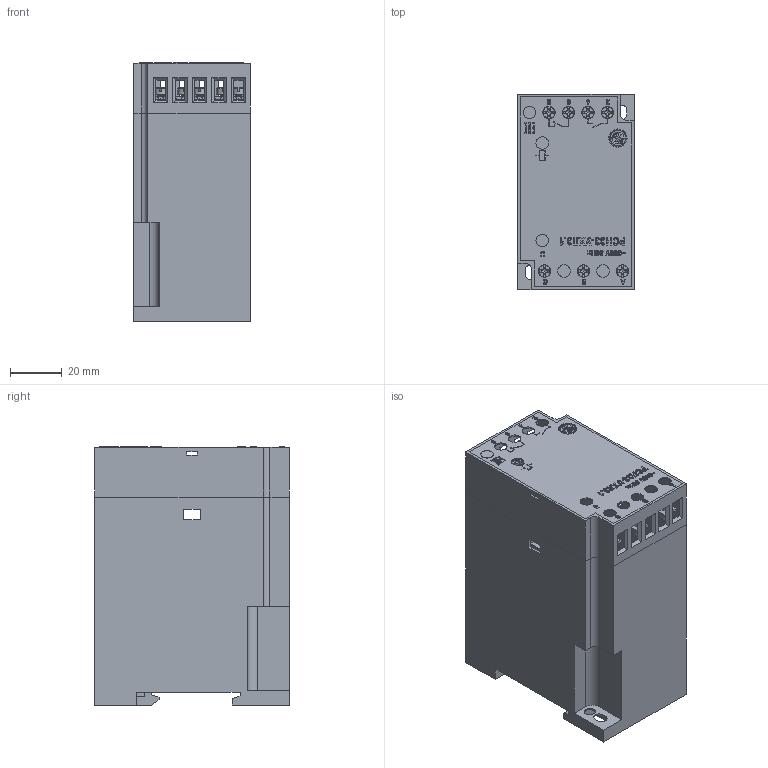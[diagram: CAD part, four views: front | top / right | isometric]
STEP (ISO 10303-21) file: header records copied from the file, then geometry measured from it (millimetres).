
FILE_DESCRIPTION(('STEP AP214'), '1');
FILE_NAME('ﾐﾑﾍ33 380ﾂ', '', ('UNSPECIFIED'), ('UNSPECIFIED'), 'ASCON STEP Converter 1.6', 'ASCON Math Kernel', '');
FILE_SCHEMA(('AUTOMOTIVE_DESIGN { 1 0 10303 214 3 1 1}'));
Length unit declared in the file: millimetre
Products named in the file (9): 襠窏.301612.; 襠窏.753512.139
Assembly tree (14 placements, depth 3):
  (unnamed)
    (unnamed)
    (unnamed)
    襠窏.301612.  x7
      (unnamed)
      (unnamed)
    (unnamed)
    (unnamed)
    襠窏.753512.139
Bounding box: 45 x 75 x 99.3 mm (x, y, z)
Volume: 30564 mm3; surface area: 62023.8 mm2
Topology: 19 solids, 19 shells, 2428 faces, 6560 edges, 4238 vertices
Faces by surface type: cylinder 1145, plane 1063, cone 112, bspline 73, torus 35
Full cylindrical faces by diameter (mm): 2.3 x7, 3 x7, 4.2 x2, 4.8 x12
Entity records: 79065 total; most frequent: CARTESIAN_POINT 14502, DIRECTION 10856, ORIENTED_EDGE 10292, EDGE_CURVE 5146, AXIS2_PLACEMENT_3D 3968, VERTEX_POINT 3422, LINE 2920, VECTOR 2920
